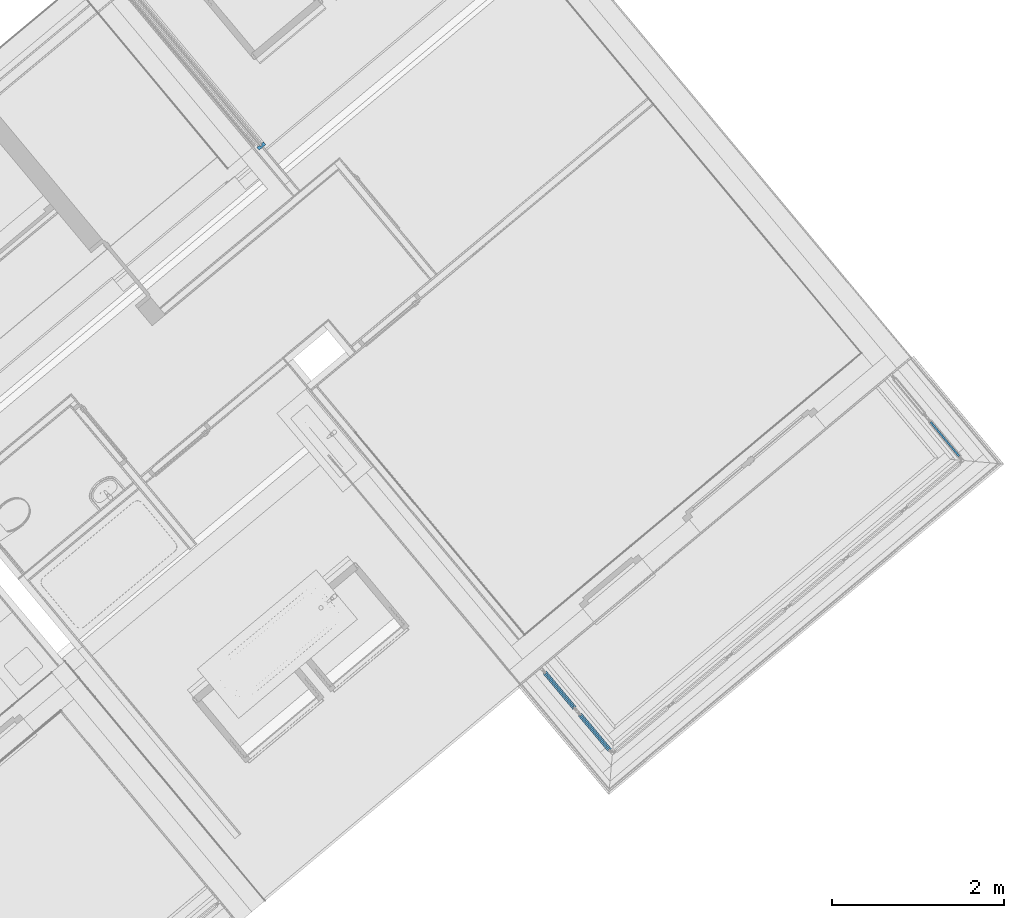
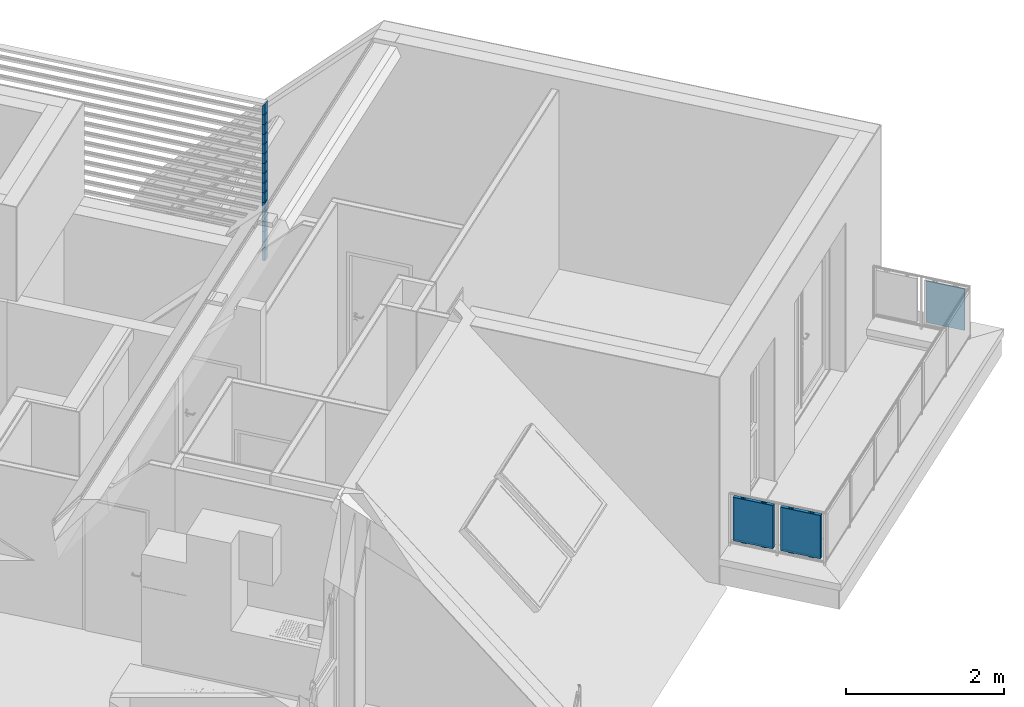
# One storey, part 41 of 47: 21 building element parts, 2 elements without a shape of their own.
"""IFC4 building model written with IfcOpenShell, lengths in metres."""

import ifcopenshell
import ifcopenshell.guid

model = None  # the IFC model being written
_history = None  # IfcOwnerHistory: only IFC2X3 demands one
_inside = {}  # id of a spatial element -> (the spatial element, [elements in it])
_under = {}  # id of a project, library or spatial element -> (it, [spatial elements below it])
_declared = {}  # id of a project -> (the project, [libraries it declares])
_typed = {}  # id of a type object -> (the type object, [elements of that type])
_made_of = {}  # id of a material, layer set ... -> (it, [elements and type objects made of it])


def new_model(schema):
    """Start an empty IFC model of exactly this schema.

    Asked for "IFC4X3", IfcOpenShell would pick the latest addendum, in which some entities
    have other attributes; the version numbers below select the first issue.
    IFC2X3 requires an IfcOwnerHistory on every rooted entity: one is made here for all.
    """
    global model, _history
    if schema == "IFC4X3":
        model = ifcopenshell.file(schema_version=(4, 3, 0, 0))
    else:
        model = ifcopenshell.file(schema=schema)
    _inside.clear()
    _under.clear()
    _declared.clear()
    _typed.clear()
    _made_of.clear()
    _history = None
    if model.schema == "IFC2X3":
        org = make("IfcOrganization", Name="unknown")
        user = make(
            "IfcPersonAndOrganization",
            ThePerson=make("IfcPerson", FamilyName="unknown"),
            TheOrganization=org,
        )
        app = make(
            "IfcApplication",
            ApplicationDeveloper=org,
            Version="unknown",
            ApplicationFullName="unknown",
            ApplicationIdentifier="unknown",
        )
        _history = make(
            "IfcOwnerHistory",
            OwningUser=user,
            OwningApplication=app,
            ChangeAction="ADDED",
            CreationDate=0,
        )
    return model


def make(cls, **values):
    """One entity of the class cls with the attributes given. An attribute that is None is left unset."""
    return model.create_entity(
        cls, **{name: value for name, value in values.items() if value is not None}
    )


def entity(cls, *values):
    """Any entity or typed value of the class cls, its attributes in the order of the schema. None: left unset."""
    e = model.create_entity(cls)
    for i, value in enumerate(values):
        if value is not None:
            e[i] = value
    return e


def rooted(cls, **values):
    """An entity with a GlobalId (a new one), such as an element, a storey or a relation."""
    return make(cls, GlobalId=ifcopenshell.guid.new(), OwnerHistory=_history, **values)


def si_unit(unit_type, name, prefix=None):
    """IfcSIUnit, for example si_unit("LENGTHUNIT", "METRE", prefix="MILLI")."""
    return make("IfcSIUnit", UnitType=unit_type, Prefix=prefix, Name=name)


def converted_unit(unit_type, name, factor, base, dimensions=None, offset=None):
    """IfcConversionBasedUnit, such as the inch: factor (a typed value) times the base unit."""
    return make(
        "IfcConversionBasedUnit"
        if offset is None
        else "IfcConversionBasedUnitWithOffset",
        ConversionOffset=offset,
        Dimensions=None
        if dimensions is None
        else entity("IfcDimensionalExponents", *dimensions),
        UnitType=unit_type,
        Name=name,
        ConversionFactor=make(
            "IfcMeasureWithUnit", ValueComponent=factor, UnitComponent=base
        ),
    )


def derived_unit(unit_type, elements):
    """IfcDerivedUnit: a product of units, each with its exponent."""
    return make(
        "IfcDerivedUnit",
        Elements=[
            make("IfcDerivedUnitElement", Unit=unit, Exponent=power)
            for unit, power in elements
        ],
        UnitType=unit_type,
    )


def assignment(units):
    """IfcUnitAssignment: the units of a project."""
    return None if units is None else make("IfcUnitAssignment", Units=units)


def point(xyz):
    """IfcCartesianPoint."""
    return None if xyz is None else make("IfcCartesianPoint", Coordinates=xyz)


def direction(xyz):
    """IfcDirection."""
    return None if xyz is None else make("IfcDirection", DirectionRatios=xyz)


def frame(location, z_axis=None, x_axis=None):
    """IfcAxis2Placement3D, a coordinate frame: its origin and axes. An axis left out is left unset."""
    return make(
        "IfcAxis2Placement3D",
        Location=point(location),
        Axis=direction(z_axis),
        RefDirection=direction(x_axis),
    )


def origin_with_axes():
    """The frame at (0, 0, 0) with the z axis (0, 0, 1) and the x axis (1, 0, 0) written out."""
    return frame((0.0, 0.0, 0.0), z_axis=(0.0, 0.0, 1.0), x_axis=(1.0, 0.0, 0.0))


def place(relative_to, where):
    """IfcLocalPlacement: puts the frame where relative to a parent placement (None: the world)."""
    return make(
        "IfcLocalPlacement", PlacementRelTo=relative_to, RelativePlacement=where
    )


def context(
    kind, dimensions, precision=None, world=None, true_north=None, identifier=None
):
    """IfcGeometricRepresentationContext, for example the 3D "Model" context."""
    return make(
        "IfcGeometricRepresentationContext",
        ContextIdentifier=identifier,
        ContextType=kind,
        CoordinateSpaceDimension=dimensions,
        Precision=precision,
        WorldCoordinateSystem=world,
        TrueNorth=true_north,
    )


def subcontext(parent, identifier, kind, view, scale=None):
    """IfcGeometricRepresentationSubContext, for example "Body" below "Model"."""
    return make(
        "IfcGeometricRepresentationSubContext",
        ContextIdentifier=identifier,
        ContextType=kind,
        ParentContext=parent,
        TargetScale=scale,
        TargetView=view,
    )


def project(units=None, contexts=None):
    """IfcProject with its units and contexts."""
    return rooted(
        "IfcProject",
        Name="project",
        RepresentationContexts=contexts,
        UnitsInContext=assignment(units),
    )


def spatial(cls, under=None, at=None, **own):
    """A site, building, storey or space (cls), placed at a placement, below another one or the project."""
    s = rooted(cls, ObjectPlacement=at, **own)
    if under is not None:
        _under.setdefault(under.id(), (under, []))[1].append(s)
    return s


def point_list(points):
    """IfcCartesianPointList2D or 3D."""
    cls = (
        "IfcCartesianPointList2D" if len(points[0]) == 2 else "IfcCartesianPointList3D"
    )
    return make(cls, CoordList=points)


def polygons(points, faces, closed=None, point_numbers=None):
    """IfcPolygonalFaceSet: a face is its outer loop, then its inner loops; points numbered from 1."""
    made = []
    for loops in faces:
        if len(loops) == 1:
            made.append(make("IfcIndexedPolygonalFace", CoordIndex=loops[0]))
        else:
            made.append(
                make(
                    "IfcIndexedPolygonalFaceWithVoids",
                    CoordIndex=loops[0],
                    InnerCoordIndices=loops[1:],
                )
            )
    return make(
        "IfcPolygonalFaceSet",
        Coordinates=point_list(points),
        Closed=closed,
        Faces=made,
        PnIndex=point_numbers,
    )


def shape(context_of_items, identifier, shape_type, items):
    """IfcShapeRepresentation: the items that make up one representation, for example the "Body"."""
    return make(
        "IfcShapeRepresentation",
        ContextOfItems=context_of_items,
        RepresentationIdentifier=identifier,
        RepresentationType=shape_type,
        Items=items,
    )


def material(Name=None, Category=None):
    """IfcMaterial."""
    return make("IfcMaterial", Name=Name, Category=Category)


def made_of(thing, what):
    """Note that an element or type object is made of a material, layer set ...; save() writes the relation."""
    if what is not None:
        _made_of.setdefault(what.id(), (what, []))[1].append(thing)
    return thing


def type_object(cls, material=None, **own):
    """A type object (cls), such as IfcWallType, which elements share."""
    return made_of(rooted(cls, **own), material)


def element(
    cls,
    number,
    at=None,
    inside=None,
    cuts=None,
    type_object=None,
    material=None,
    context=None,
    identifier="Body",
    shape_type=None,
    held_by="IfcProductDefinitionShape",
    body=None,
    shapes=None,
    **own,
):
    """One element of the class cls, such as IfcWall. Its Tag is "e" and its number.

    at: its placement. inside: the storey or other place that contains it. cuts: it is an
    opening in that element (IfcRelVoidsElement). A single representation is given by context,
    identifier, shape_type and body (its items); several are given by shapes. held_by: the class
    of the entity that holds the representations. save() writes the other relations.
    """
    e = rooted(cls, Tag="e%d" % number, ObjectPlacement=at, **own)
    if body is not None:
        shapes = [shape(context, identifier, shape_type, body)]
    if shapes is not None:
        e.Representation = make(held_by, Representations=shapes)
    if inside is not None:
        _inside.setdefault(inside.id(), (inside, []))[1].append(e)
    if cuts is not None:
        rooted(
            "IfcRelVoidsElement", RelatingBuildingElement=cuts, RelatedOpeningElement=e
        )
    if type_object is not None:
        _typed.setdefault(type_object.id(), (type_object, []))[1].append(e)
    return made_of(e, material)


def aggregate(whole, parts):
    """IfcRelAggregates: a whole, such as a stair, and the parts it consists of."""
    return rooted("IfcRelAggregates", RelatingObject=whole, RelatedObjects=parts)


def save(model, path):
    """Write the relations noted so far, then the file.

    IfcRelAggregates (storeys below a building ...), IfcRelContainedInSpatialStructure (elements
    in a storey), IfcRelDefinesByType, IfcRelAssociatesMaterial and IfcRelDeclares: one each for
    every whole, place, type object, material and project.
    """
    for whole, parts in _under.values():
        aggregate(whole, parts)
    for where, things in _inside.values():
        rooted(
            "IfcRelContainedInSpatialStructure",
            RelatedElements=things,
            RelatingStructure=where,
        )
    for kind, things in _typed.values():
        rooted("IfcRelDefinesByType", RelatedObjects=things, RelatingType=kind)
    for what, things in _made_of.values():
        rooted("IfcRelAssociatesMaterial", RelatedObjects=things, RelatingMaterial=what)
    for by, libraries in _declared.values():
        rooted("IfcRelDeclares", RelatingContext=by, RelatedDefinitions=libraries)
    model.write(path)


model = new_model("IFC4")

# Units and contexts
model_context = context("Model", 3, precision=1e-05, world=origin_with_axes(), true_north=direction((0.0, 1.0)))
body_context = subcontext(model_context, "Body", "Model", "MODEL_VIEW")
ifc_project = project(units=[si_unit("LENGTHUNIT", "METRE"), si_unit("AREAUNIT", "SQUARE_METRE"), si_unit("VOLUMEUNIT", "CUBIC_METRE"), converted_unit("PLANEANGLEUNIT", "DEGREE", entity("IfcPlaneAngleMeasure", 0.0174532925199), si_unit("PLANEANGLEUNIT", "RADIAN"), dimensions=[0, 0, 0, 0, 0, 0, 0]), converted_unit("TIMEUNIT", "Year", entity("IfcTimeMeasure", 31556926.0), si_unit("TIMEUNIT", "SECOND"), dimensions=[0, 0, 1, 0, 0, 0, 0]), si_unit("MASSUNIT", "GRAM", prefix="KILO"), si_unit("THERMODYNAMICTEMPERATUREUNIT", "DEGREE_CELSIUS"), si_unit("LUMINOUSINTENSITYUNIT", "LUMEN"), si_unit("ENERGYUNIT", "JOULE", prefix="MEGA"), derived_unit("THERMALCONDUCTANCEUNIT", [(si_unit("POWERUNIT", "WATT"), 1), (si_unit("LENGTHUNIT", "METRE"), -1), (si_unit("THERMODYNAMICTEMPERATUREUNIT", "KELVIN"), -1)]), derived_unit("SPECIFICHEATCAPACITYUNIT", [(si_unit("ENERGYUNIT", "JOULE"), 1), (si_unit("MASSUNIT", "GRAM", prefix="KILO"), -1), (si_unit("THERMODYNAMICTEMPERATUREUNIT", "KELVIN"), -1)]), derived_unit("MASSDENSITYUNIT", [(si_unit("MASSUNIT", "GRAM", prefix="KILO"), 1), (si_unit("VOLUMEUNIT", "CUBIC_METRE"), -1)])], contexts=[model_context])

# Site, building, storey
site_placement = place(None, frame((-0.00153261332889, -0.00661245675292, 0.0), z_axis=(0.0, 0.0, 1.0), x_axis=(1.0, 0.0, 0.0)))
site = spatial("IfcSite", under=ifc_project, at=site_placement, Name="Site", CompositionType="ELEMENT")
building_placement = place(site_placement, origin_with_axes())
building = spatial("IfcBuilding", under=site, at=building_placement, Name="Building", CompositionType="ELEMENT")
storey_placement = place(building_placement, frame((0.0, 0.0, 8.66), z_axis=(0.0, 0.0, 1.0), x_axis=(1.0, 0.0, 0.0)))
storey = spatial("IfcBuildingStorey", under=building, at=storey_placement, Name="DG2", CompositionType="ELEMENT", Elevation=8.66)

# Curtain wall, building element parts
curtain_wall_type = type_object("IfcCurtainWallType", Name="Fassadentyp", PredefinedType="NOTDEFINED")
curtain_wall_placement = place(storey_placement, frame((3.22758193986, 25.8519152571, 0.32), z_axis=(0.0, 0.0, 1.0), x_axis=(1.0, 0.0, 0.0)))
curtain_wall = element("IfcCurtainWall", 1, at=curtain_wall_placement, inside=storey, type_object=curtain_wall_type, Name="Fassade-001", PredefinedType="NOTDEFINED")
ifc_material_1 = material(Name="Blech")
building_element_part_1_placement = place(curtain_wall_placement, origin_with_axes())
building_element_part_1 = element("IfcBuildingElementPart", 2, at=building_element_part_1_placement, material=ifc_material_1, Name="Blech", PredefinedType="NOTDEFINED", context=body_context, shape_type="Tessellation", body=[
    polygons([(1.55485923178, -1.88503623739, 2.1), (1.54203854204, -1.86968599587, 2.1), (1.51517561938, -1.8921222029, 2.1), (1.54081699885, -1.92282268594, 2.1), (1.61756820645, -1.85871923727, 2.1), (1.59192682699, -1.82801875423, 2.1), (1.56506390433, -1.85045496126, 2.1), (1.57788459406, -1.86580520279, 2.1), (1.55485923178, -1.88503623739, 1.95), (1.54203854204, -1.86968599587, 1.95), (1.51517561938, -1.8921222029, 1.95), (1.54081699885, -1.92282268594, 1.95), (1.61756820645, -1.85871923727, 1.95), (1.59192682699, -1.82801875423, 1.95), (1.56506390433, -1.85045496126, 1.95), (1.57788459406, -1.86580520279, 1.95)], [[[1, 2, 3, 4, 5, 6, 7, 8]], [[1, 9, 10, 2]], [[10, 11, 3, 2]], [[11, 12, 4, 3]], [[12, 13, 5, 4]], [[13, 14, 6, 5]], [[7, 6, 14, 15]], [[15, 16, 8, 7]], [[8, 16, 9, 1]], [[9, 16, 15, 14, 13, 12, 11, 10]]], closed=True),
])
building_element_part_2_placement = place(curtain_wall_placement, origin_with_axes())
building_element_part_2 = element("IfcBuildingElementPart", 3, at=building_element_part_2_placement, material=ifc_material_1, Name="Blech", PredefinedType="NOTDEFINED", context=body_context, shape_type="Tessellation", body=[
    polygons([(1.55485923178, -1.88503623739, 2.25), (1.54203854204, -1.86968599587, 2.25), (1.51517561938, -1.8921222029, 2.25), (1.54081699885, -1.92282268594, 2.25), (1.61756820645, -1.85871923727, 2.25), (1.59192682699, -1.82801875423, 2.25), (1.56506390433, -1.85045496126, 2.25), (1.57788459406, -1.86580520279, 2.25), (1.55485923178, -1.88503623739, 2.1), (1.54203854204, -1.86968599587, 2.1), (1.51517561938, -1.8921222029, 2.1), (1.54081699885, -1.92282268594, 2.1), (1.61756820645, -1.85871923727, 2.1), (1.59192682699, -1.82801875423, 2.1), (1.56506390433, -1.85045496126, 2.1), (1.57788459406, -1.86580520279, 2.1)], [[[1, 2, 3, 4, 5, 6, 7, 8]], [[1, 9, 10, 2]], [[10, 11, 3, 2]], [[11, 12, 4, 3]], [[12, 13, 5, 4]], [[13, 14, 6, 5]], [[7, 6, 14, 15]], [[15, 16, 8, 7]], [[8, 16, 9, 1]], [[9, 16, 15, 14, 13, 12, 11, 10]]], closed=True),
])
building_element_part_3_placement = place(curtain_wall_placement, origin_with_axes())
building_element_part_3 = element("IfcBuildingElementPart", 4, at=building_element_part_3_placement, material=ifc_material_1, Name="Blech", PredefinedType="NOTDEFINED", context=body_context, shape_type="Tessellation", body=[
    polygons([(1.55485923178, -1.88503623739, 2.4), (1.54203854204, -1.86968599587, 2.4), (1.51517561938, -1.8921222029, 2.4), (1.54081699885, -1.92282268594, 2.4), (1.61756820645, -1.85871923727, 2.4), (1.59192682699, -1.82801875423, 2.4), (1.56506390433, -1.85045496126, 2.4), (1.57788459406, -1.86580520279, 2.4), (1.55485923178, -1.88503623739, 2.25), (1.54203854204, -1.86968599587, 2.25), (1.51517561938, -1.8921222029, 2.25), (1.54081699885, -1.92282268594, 2.25), (1.61756820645, -1.85871923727, 2.25), (1.59192682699, -1.82801875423, 2.25), (1.56506390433, -1.85045496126, 2.25), (1.57788459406, -1.86580520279, 2.25)], [[[1, 2, 3, 4, 5, 6, 7, 8]], [[1, 9, 10, 2]], [[10, 11, 3, 2]], [[11, 12, 4, 3]], [[12, 13, 5, 4]], [[13, 14, 6, 5]], [[7, 6, 14, 15]], [[15, 16, 8, 7]], [[8, 16, 9, 1]], [[9, 16, 15, 14, 13, 12, 11, 10]]], closed=True),
])
building_element_part_4_placement = place(curtain_wall_placement, origin_with_axes())
building_element_part_4 = element("IfcBuildingElementPart", 5, at=building_element_part_4_placement, material=ifc_material_1, Name="Blech", PredefinedType="NOTDEFINED", context=body_context, shape_type="Tessellation", body=[
    polygons([(1.55485923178, -1.88503623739, 2.55), (1.54203854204, -1.86968599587, 2.55), (1.51517561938, -1.8921222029, 2.55), (1.54081699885, -1.92282268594, 2.55), (1.61756820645, -1.85871923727, 2.55), (1.59192682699, -1.82801875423, 2.55), (1.56506390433, -1.85045496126, 2.55), (1.57788459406, -1.86580520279, 2.55), (1.55485923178, -1.88503623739, 2.4), (1.54203854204, -1.86968599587, 2.4), (1.51517561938, -1.8921222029, 2.4), (1.54081699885, -1.92282268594, 2.4), (1.61756820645, -1.85871923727, 2.4), (1.59192682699, -1.82801875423, 2.4), (1.56506390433, -1.85045496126, 2.4), (1.57788459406, -1.86580520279, 2.4)], [[[1, 2, 3, 4, 5, 6, 7, 8]], [[1, 9, 10, 2]], [[10, 11, 3, 2]], [[11, 12, 4, 3]], [[12, 13, 5, 4]], [[13, 14, 6, 5]], [[7, 6, 14, 15]], [[15, 16, 8, 7]], [[8, 16, 9, 1]], [[9, 16, 15, 14, 13, 12, 11, 10]]], closed=True),
])
building_element_part_5_placement = place(curtain_wall_placement, origin_with_axes())
building_element_part_5 = element("IfcBuildingElementPart", 6, at=building_element_part_5_placement, material=ifc_material_1, Name="Blech", PredefinedType="NOTDEFINED", context=body_context, shape_type="Tessellation", body=[
    polygons([(1.55485923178, -1.88503623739, 2.7), (1.54203854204, -1.86968599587, 2.7), (1.51517561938, -1.8921222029, 2.7), (1.54081699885, -1.92282268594, 2.7), (1.61756820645, -1.85871923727, 2.7), (1.59192682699, -1.82801875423, 2.7), (1.56506390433, -1.85045496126, 2.7), (1.57788459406, -1.86580520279, 2.7), (1.55485923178, -1.88503623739, 2.55), (1.54203854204, -1.86968599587, 2.55), (1.51517561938, -1.8921222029, 2.55), (1.54081699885, -1.92282268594, 2.55), (1.61756820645, -1.85871923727, 2.55), (1.59192682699, -1.82801875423, 2.55), (1.56506390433, -1.85045496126, 2.55), (1.57788459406, -1.86580520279, 2.55)], [[[1, 2, 3, 4, 5, 6, 7, 8]], [[1, 9, 10, 2]], [[10, 11, 3, 2]], [[11, 12, 4, 3]], [[12, 13, 5, 4]], [[13, 14, 6, 5]], [[7, 6, 14, 15]], [[15, 16, 8, 7]], [[8, 16, 9, 1]], [[9, 16, 15, 14, 13, 12, 11, 10]]], closed=True),
])
building_element_part_6_placement = place(curtain_wall_placement, origin_with_axes())
building_element_part_6 = element("IfcBuildingElementPart", 7, at=building_element_part_6_placement, material=ifc_material_1, Name="Blech", PredefinedType="NOTDEFINED", context=body_context, shape_type="Tessellation", body=[
    polygons([(1.55485923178, -1.88503623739, 2.85), (1.54203854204, -1.86968599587, 2.85), (1.51517561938, -1.8921222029, 2.85), (1.54081699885, -1.92282268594, 2.85), (1.61756820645, -1.85871923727, 2.85), (1.59192682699, -1.82801875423, 2.85), (1.56506390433, -1.85045496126, 2.85), (1.57788459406, -1.86580520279, 2.85), (1.55485923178, -1.88503623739, 2.7), (1.54203854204, -1.86968599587, 2.7), (1.51517561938, -1.8921222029, 2.7), (1.54081699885, -1.92282268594, 2.7), (1.61756820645, -1.85871923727, 2.7), (1.59192682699, -1.82801875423, 2.7), (1.56506390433, -1.85045496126, 2.7), (1.57788459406, -1.86580520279, 2.7)], [[[1, 2, 3, 4, 5, 6, 7, 8]], [[1, 9, 10, 2]], [[10, 11, 3, 2]], [[11, 12, 4, 3]], [[12, 13, 5, 4]], [[13, 14, 6, 5]], [[7, 6, 14, 15]], [[15, 16, 8, 7]], [[8, 16, 9, 1]], [[9, 16, 15, 14, 13, 12, 11, 10]]], closed=True),
])
building_element_part_7_placement = place(curtain_wall_placement, origin_with_axes())
building_element_part_7 = element("IfcBuildingElementPart", 8, at=building_element_part_7_placement, material=ifc_material_1, Name="Blech", PredefinedType="NOTDEFINED", context=body_context, shape_type="Tessellation", body=[
    polygons([(1.55485923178, -1.88503623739, 3.0), (1.54203854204, -1.86968599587, 3.0), (1.51517561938, -1.8921222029, 3.0), (1.54081699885, -1.92282268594, 3.0), (1.61756820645, -1.85871923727, 3.0), (1.59192682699, -1.82801875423, 3.0), (1.56506390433, -1.85045496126, 3.0), (1.57788459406, -1.86580520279, 3.0), (1.55485923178, -1.88503623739, 2.85), (1.54203854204, -1.86968599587, 2.85), (1.51517561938, -1.8921222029, 2.85), (1.54081699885, -1.92282268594, 2.85), (1.61756820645, -1.85871923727, 2.85), (1.59192682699, -1.82801875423, 2.85), (1.56506390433, -1.85045496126, 2.85), (1.57788459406, -1.86580520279, 2.85)], [[[1, 2, 3, 4, 5, 6, 7, 8]], [[1, 9, 10, 2]], [[10, 11, 3, 2]], [[11, 12, 4, 3]], [[12, 13, 5, 4]], [[13, 14, 6, 5]], [[7, 6, 14, 15]], [[15, 16, 8, 7]], [[8, 16, 9, 1]], [[9, 16, 15, 14, 13, 12, 11, 10]]], closed=True),
])
building_element_part_8_placement = place(curtain_wall_placement, origin_with_axes())
building_element_part_8 = element("IfcBuildingElementPart", 9, at=building_element_part_8_placement, material=ifc_material_1, Name="Blech", PredefinedType="NOTDEFINED", context=body_context, shape_type="Tessellation", body=[
    polygons([(1.55485923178, -1.88503623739, 3.15), (1.54203854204, -1.86968599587, 3.15), (1.51517561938, -1.8921222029, 3.15), (1.54081699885, -1.92282268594, 3.15), (1.61756820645, -1.85871923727, 3.15), (1.59192682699, -1.82801875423, 3.15), (1.56506390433, -1.85045496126, 3.15), (1.57788459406, -1.86580520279, 3.15), (1.55485923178, -1.88503623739, 3.0), (1.54203854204, -1.86968599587, 3.0), (1.51517561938, -1.8921222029, 3.0), (1.54081699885, -1.92282268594, 3.0), (1.61756820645, -1.85871923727, 3.0), (1.59192682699, -1.82801875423, 3.0), (1.56506390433, -1.85045496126, 3.0), (1.57788459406, -1.86580520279, 3.0)], [[[1, 2, 3, 4, 5, 6, 7, 8]], [[1, 9, 10, 2]], [[10, 11, 3, 2]], [[11, 12, 4, 3]], [[12, 13, 5, 4]], [[13, 14, 6, 5]], [[7, 6, 14, 15]], [[15, 16, 8, 7]], [[8, 16, 9, 1]], [[9, 16, 15, 14, 13, 12, 11, 10]]], closed=True),
])
building_element_part_9_placement = place(curtain_wall_placement, origin_with_axes())
building_element_part_9 = element("IfcBuildingElementPart", 10, at=building_element_part_9_placement, material=ifc_material_1, Name="Blech", PredefinedType="NOTDEFINED", context=body_context, shape_type="Tessellation", body=[
    polygons([(1.55485923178, -1.88503623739, 3.3), (1.54203854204, -1.86968599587, 3.3), (1.51517561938, -1.8921222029, 3.3), (1.54081699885, -1.92282268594, 3.3), (1.61756820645, -1.85871923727, 3.3), (1.59192682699, -1.82801875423, 3.3), (1.56506390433, -1.85045496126, 3.3), (1.57788459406, -1.86580520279, 3.3), (1.55485923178, -1.88503623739, 3.15), (1.54203854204, -1.86968599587, 3.15), (1.51517561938, -1.8921222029, 3.15), (1.54081699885, -1.92282268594, 3.15), (1.61756820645, -1.85871923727, 3.15), (1.59192682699, -1.82801875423, 3.15), (1.56506390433, -1.85045496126, 3.15), (1.57788459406, -1.86580520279, 3.15)], [[[1, 2, 3, 4, 5, 6, 7, 8]], [[1, 9, 10, 2]], [[10, 11, 3, 2]], [[11, 12, 4, 3]], [[12, 13, 5, 4]], [[13, 14, 6, 5]], [[7, 6, 14, 15]], [[15, 16, 8, 7]], [[8, 16, 9, 1]], [[9, 16, 15, 14, 13, 12, 11, 10]]], closed=True),
])
building_element_part_10_placement = place(curtain_wall_placement, origin_with_axes())
building_element_part_10 = element("IfcBuildingElementPart", 11, at=building_element_part_10_placement, material=ifc_material_1, Name="Blech", PredefinedType="NOTDEFINED", context=body_context, shape_type="Tessellation", body=[
    polygons([(1.55485923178, -1.88503623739, 3.45), (1.54203854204, -1.86968599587, 3.45), (1.51517561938, -1.8921222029, 3.45), (1.54081699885, -1.92282268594, 3.45), (1.61756820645, -1.85871923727, 3.45), (1.59192682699, -1.82801875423, 3.45), (1.56506390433, -1.85045496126, 3.45), (1.57788459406, -1.86580520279, 3.45), (1.55485923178, -1.88503623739, 3.3), (1.54203854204, -1.86968599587, 3.3), (1.51517561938, -1.8921222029, 3.3), (1.54081699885, -1.92282268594, 3.3), (1.61756820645, -1.85871923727, 3.3), (1.59192682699, -1.82801875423, 3.3), (1.56506390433, -1.85045496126, 3.3), (1.57788459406, -1.86580520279, 3.3)], [[[1, 2, 3, 4, 5, 6, 7, 8]], [[1, 9, 10, 2]], [[10, 11, 3, 2]], [[11, 12, 4, 3]], [[12, 13, 5, 4]], [[13, 14, 6, 5]], [[7, 6, 14, 15]], [[15, 16, 8, 7]], [[8, 16, 9, 1]], [[9, 16, 15, 14, 13, 12, 11, 10]]], closed=True),
])
building_element_part_11_placement = place(curtain_wall_placement, origin_with_axes())
building_element_part_11 = element("IfcBuildingElementPart", 12, at=building_element_part_11_placement, material=ifc_material_1, Name="Blech", PredefinedType="NOTDEFINED", context=body_context, shape_type="Tessellation", body=[
    polygons([(1.55485923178, -1.88503623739, 3.6), (1.54203854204, -1.86968599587, 3.6), (1.51517561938, -1.8921222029, 3.6), (1.54081699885, -1.92282268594, 3.6), (1.61756820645, -1.85871923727, 3.6), (1.59192682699, -1.82801875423, 3.6), (1.56506390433, -1.85045496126, 3.6), (1.57788459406, -1.86580520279, 3.6), (1.55485923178, -1.88503623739, 3.45), (1.54203854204, -1.86968599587, 3.45), (1.51517561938, -1.8921222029, 3.45), (1.54081699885, -1.92282268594, 3.45), (1.61756820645, -1.85871923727, 3.45), (1.59192682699, -1.82801875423, 3.45), (1.56506390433, -1.85045496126, 3.45), (1.57788459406, -1.86580520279, 3.45)], [[[1, 2, 3, 4, 5, 6, 7, 8]], [[1, 9, 10, 2]], [[10, 11, 3, 2]], [[11, 12, 4, 3]], [[12, 13, 5, 4]], [[13, 14, 6, 5]], [[7, 6, 14, 15]], [[15, 16, 8, 7]], [[8, 16, 9, 1]], [[9, 16, 15, 14, 13, 12, 11, 10]]], closed=True),
])
building_element_part_12_placement = place(curtain_wall_placement, origin_with_axes())
building_element_part_12 = element("IfcBuildingElementPart", 13, at=building_element_part_12_placement, material=ifc_material_1, Name="Blech", PredefinedType="NOTDEFINED", context=body_context, shape_type="Tessellation", body=[
    polygons([(1.55485923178, -1.88503623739, 3.75), (1.54203854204, -1.86968599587, 3.75), (1.51517561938, -1.8921222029, 3.75), (1.54081699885, -1.92282268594, 3.75), (1.61756820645, -1.85871923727, 3.75), (1.59192682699, -1.82801875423, 3.75), (1.56506390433, -1.85045496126, 3.75), (1.57788459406, -1.86580520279, 3.75), (1.55485923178, -1.88503623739, 3.6), (1.54203854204, -1.86968599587, 3.6), (1.51517561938, -1.8921222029, 3.6), (1.54081699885, -1.92282268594, 3.6), (1.61756820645, -1.85871923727, 3.6), (1.59192682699, -1.82801875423, 3.6), (1.56506390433, -1.85045496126, 3.6), (1.57788459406, -1.86580520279, 3.6)], [[[1, 2, 3, 4, 5, 6, 7, 8]], [[1, 9, 10, 2]], [[10, 11, 3, 2]], [[11, 12, 4, 3]], [[12, 13, 5, 4]], [[13, 14, 6, 5]], [[7, 6, 14, 15]], [[15, 16, 8, 7]], [[8, 16, 9, 1]], [[9, 16, 15, 14, 13, 12, 11, 10]]], closed=True),
])
building_element_part_13_placement = place(curtain_wall_placement, origin_with_axes())
building_element_part_13 = element("IfcBuildingElementPart", 14, at=building_element_part_13_placement, material=ifc_material_1, Name="Blech", PredefinedType="NOTDEFINED", context=body_context, shape_type="Tessellation", body=[
    polygons([(1.55485923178, -1.88503623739, 3.9), (1.54203854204, -1.86968599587, 3.9), (1.51517561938, -1.8921222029, 3.9), (1.54081699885, -1.92282268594, 3.9), (1.61756820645, -1.85871923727, 3.9), (1.59192682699, -1.82801875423, 3.9), (1.56506390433, -1.85045496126, 3.9), (1.57788459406, -1.86580520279, 3.9), (1.55485923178, -1.88503623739, 3.75), (1.54203854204, -1.86968599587, 3.75), (1.51517561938, -1.8921222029, 3.75), (1.54081699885, -1.92282268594, 3.75), (1.61756820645, -1.85871923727, 3.75), (1.59192682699, -1.82801875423, 3.75), (1.56506390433, -1.85045496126, 3.75), (1.57788459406, -1.86580520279, 3.75)], [[[1, 2, 3, 4, 5, 6, 7, 8]], [[1, 9, 10, 2]], [[10, 11, 3, 2]], [[11, 12, 4, 3]], [[12, 13, 5, 4]], [[13, 14, 6, 5]], [[7, 6, 14, 15]], [[15, 16, 8, 7]], [[8, 16, 9, 1]], [[9, 16, 15, 14, 13, 12, 11, 10]]], closed=True),
])
building_element_part_14_placement = place(curtain_wall_placement, origin_with_axes())
building_element_part_14 = element("IfcBuildingElementPart", 15, at=building_element_part_14_placement, material=ifc_material_1, Name="Blech", PredefinedType="NOTDEFINED", context=body_context, shape_type="Tessellation", body=[
    polygons([(1.55485923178, -1.88503623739, 4.05), (1.54203854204, -1.86968599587, 4.05), (1.51517561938, -1.8921222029, 4.05), (1.54081699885, -1.92282268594, 4.05), (1.61756820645, -1.85871923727, 4.05), (1.59192682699, -1.82801875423, 4.05), (1.56506390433, -1.85045496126, 4.05), (1.57788459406, -1.86580520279, 4.05), (1.55485923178, -1.88503623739, 3.9), (1.54203854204, -1.86968599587, 3.9), (1.51517561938, -1.8921222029, 3.9), (1.54081699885, -1.92282268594, 3.9), (1.61756820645, -1.85871923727, 3.9), (1.59192682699, -1.82801875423, 3.9), (1.56506390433, -1.85045496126, 3.9), (1.57788459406, -1.86580520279, 3.9)], [[[1, 2, 3, 4, 5, 6, 7, 8]], [[1, 9, 10, 2]], [[10, 11, 3, 2]], [[11, 12, 4, 3]], [[12, 13, 5, 4]], [[13, 14, 6, 5]], [[7, 6, 14, 15]], [[15, 16, 8, 7]], [[8, 16, 9, 1]], [[9, 16, 15, 14, 13, 12, 11, 10]]], closed=True),
])
building_element_part_15_placement = place(curtain_wall_placement, origin_with_axes())
building_element_part_15 = element("IfcBuildingElementPart", 16, at=building_element_part_15_placement, material=ifc_material_1, Name="Blech", PredefinedType="NOTDEFINED", context=body_context, shape_type="Tessellation", body=[
    polygons([(1.55485923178, -1.88503623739, 4.2), (1.54203854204, -1.86968599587, 4.2), (1.51517561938, -1.8921222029, 4.2), (1.54081699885, -1.92282268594, 4.2), (1.61756820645, -1.85871923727, 4.2), (1.59192682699, -1.82801875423, 4.2), (1.56506390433, -1.85045496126, 4.2), (1.57788459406, -1.86580520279, 4.2), (1.55485923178, -1.88503623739, 4.05), (1.54203854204, -1.86968599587, 4.05), (1.51517561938, -1.8921222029, 4.05), (1.54081699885, -1.92282268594, 4.05), (1.61756820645, -1.85871923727, 4.05), (1.59192682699, -1.82801875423, 4.05), (1.56506390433, -1.85045496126, 4.05), (1.57788459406, -1.86580520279, 4.05)], [[[1, 2, 3, 4, 5, 6, 7, 8]], [[1, 9, 10, 2]], [[10, 11, 3, 2]], [[11, 12, 4, 3]], [[12, 13, 5, 4]], [[13, 14, 6, 5]], [[7, 6, 14, 15]], [[15, 16, 8, 7]], [[8, 16, 9, 1]], [[9, 16, 15, 14, 13, 12, 11, 10]]], closed=True),
])
building_element_part_16_placement = place(curtain_wall_placement, origin_with_axes())
building_element_part_16 = element("IfcBuildingElementPart", 17, at=building_element_part_16_placement, material=ifc_material_1, Name="Blech", PredefinedType="NOTDEFINED", context=body_context, shape_type="Tessellation", body=[
    polygons([(1.55485923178, -1.88503623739, 4.35), (1.54203854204, -1.86968599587, 4.33), (1.51517561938, -1.8921222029, 4.33), (1.54081699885, -1.92282268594, 4.37), (1.61756820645, -1.85871923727, 4.37), (1.59192682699, -1.82801875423, 4.33), (1.56506390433, -1.85045496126, 4.33), (1.57788459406, -1.86580520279, 4.35), (1.55485923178, -1.88503623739, 4.2), (1.54203854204, -1.86968599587, 4.2), (1.51517561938, -1.8921222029, 4.2), (1.54081699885, -1.92282268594, 4.2), (1.61756820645, -1.85871923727, 4.2), (1.59192682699, -1.82801875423, 4.2), (1.56506390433, -1.85045496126, 4.2), (1.57788459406, -1.86580520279, 4.2)], [[[1, 2, 3, 4, 5, 6, 7, 8]], [[1, 9, 10, 2]], [[10, 11, 3, 2]], [[11, 12, 4, 3]], [[12, 13, 5, 4]], [[13, 14, 6, 5]], [[7, 6, 14, 15]], [[15, 16, 8, 7]], [[8, 16, 9, 1]], [[9, 16, 15, 14, 13, 12, 11, 10]]], closed=True),
])
aggregate(curtain_wall, [building_element_part_1, building_element_part_2, building_element_part_3, building_element_part_4, building_element_part_5, building_element_part_6, building_element_part_7, building_element_part_8, building_element_part_9, building_element_part_10, building_element_part_11, building_element_part_12, building_element_part_13, building_element_part_14, building_element_part_15, building_element_part_16])

# Railing, building element parts
railing_type = type_object("IfcRailingType", Name="Geländerart", PredefinedType="NOTDEFINED")
railing_placement = place(storey_placement, frame((8.09801261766, 17.9211539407, 0.38), z_axis=(0.0, 0.0, 1.0), x_axis=(1.0, 0.0, 0.0)))
railing = element("IfcRailing", 18, at=railing_placement, inside=storey, type_object=railing_type, Name="Geländer - 001", PredefinedType="NOTDEFINED")
ifc_material_2 = material(Name="Profilit")
building_element_part_17_placement = place(railing_placement, origin_with_axes())
building_element_part_17 = element("IfcBuildingElementPart", 19, at=building_element_part_17_placement, material=ifc_material_2, Name="Profilit", PredefinedType="NOTDEFINED", context=body_context, shape_type="Tessellation", body=[
    polygons([(0.337813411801, -0.466076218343, 0.135), (0.0110331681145, -0.0755199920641, 0.135), (0.0110331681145, -0.0755199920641, 0.775), (0.337813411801, -0.466076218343, 0.775), (-0.00430579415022, -0.088354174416, 0.135), (0.322474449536, -0.478910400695, 0.135), (-0.00430579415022, -0.088354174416, 0.775), (0.322474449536, -0.478910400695, 0.775)], [[[1, 2, 3, 4]], [[5, 2, 1, 6]], [[7, 3, 2, 5]], [[4, 3, 7, 8]], [[1, 4, 8, 6]], [[7, 5, 6, 8]]], closed=True),
])
ifc_material_3 = material(Name="Aluminium")
building_element_part_18_placement = place(railing_placement, origin_with_axes())
building_element_part_18 = element("IfcBuildingElementPart", 20, at=building_element_part_18_placement, material=ifc_material_3, Name="Aluminium", PredefinedType="NOTDEFINED", context=body_context, shape_type="Tessellation", body=[
    polygons([(0.0598263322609, -0.145523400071, 0.12), (0.104745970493, -0.199209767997, 0.12), (0.104745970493, -0.199209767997, 0.095), (0.0598263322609, -0.145523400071, 0.095), (0.0559915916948, -0.148731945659, 0.12), (0.100911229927, -0.202418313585, 0.12), (0.100911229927, -0.202418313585, 0.095), (0.0559915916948, -0.148731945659, 0.095)], [[[1, 2, 3, 4]], [[5, 6, 2, 1]], [[2, 6, 7, 3]], [[4, 3, 7, 8]], [[1, 4, 8, 5]], [[8, 7, 6, 5]]], closed=True),
    polygons([(0.232596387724, -0.352012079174, 0.12), (0.277516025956, -0.4056984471, 0.12), (0.277516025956, -0.4056984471, 0.095), (0.232596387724, -0.352012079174, 0.095), (0.228761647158, -0.355220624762, 0.12), (0.27368128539, -0.408906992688, 0.12), (0.27368128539, -0.408906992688, 0.095), (0.228761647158, -0.355220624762, 0.095)], [[[1, 2, 3, 4]], [[5, 6, 2, 1]], [[2, 6, 7, 3]], [[4, 3, 7, 8]], [[1, 4, 8, 5]], [[8, 7, 6, 5]]], closed=True),
    polygons([(0.277516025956, -0.4056984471, 0.79), (0.232596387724, -0.352012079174, 0.79), (0.232596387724, -0.352012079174, 0.795), (0.277516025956, -0.4056984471, 0.795), (0.27368128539, -0.408906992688, 0.79), (0.228761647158, -0.355220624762, 0.79), (0.228761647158, -0.355220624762, 0.795), (0.27368128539, -0.408906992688, 0.795)], [[[1, 2, 3, 4]], [[5, 6, 2, 1]], [[2, 6, 7, 3]], [[4, 3, 7, 8]], [[1, 4, 8, 5]], [[8, 7, 6, 5]]], closed=True),
    polygons([(0.104745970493, -0.199209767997, 0.79), (0.0598263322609, -0.145523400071, 0.79), (0.0598263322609, -0.145523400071, 0.795), (0.104745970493, -0.199209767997, 0.795), (0.100911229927, -0.202418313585, 0.79), (0.0559915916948, -0.148731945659, 0.79), (0.0559915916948, -0.148731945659, 0.795), (0.100911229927, -0.202418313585, 0.795)], [[[1, 2, 3, 4]], [[5, 6, 2, 1]], [[2, 6, 7, 3]], [[4, 3, 7, 8]], [[1, 4, 8, 5]], [[8, 7, 6, 5]]], closed=True),
    polygons([(-0.0254356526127, -0.0864755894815, 0.12), (0.012911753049, -0.0543901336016, 0.12), (0.358943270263, -0.467954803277, 0.12), (0.320595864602, -0.500040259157, 0.12), (-0.0126014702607, -0.101814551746, 0.14), (-0.00109724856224, -0.0921889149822, 0.14), (-0.00430579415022, -0.088354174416, 0.135), (0.0110331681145, -0.0755199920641, 0.135), (0.0142417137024, -0.0793547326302, 0.14), (0.0257459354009, -0.0697290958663, 0.14), (0.346109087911, -0.452615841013, 0.14), (0.346109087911, -0.452615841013, 0.77), (0.0257459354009, -0.0697290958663, 0.77), (0.0257459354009, -0.0697290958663, 0.14), (0.012911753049, -0.0543901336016, 0.12), (0.012911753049, -0.0543901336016, 0.79), (0.358943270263, -0.467954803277, 0.79), (0.320595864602, -0.500040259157, 0.79), (-0.0254356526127, -0.0864755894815, 0.79), (-0.0254356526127, -0.0864755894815, 0.12), (-0.0126014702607, -0.101814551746, 0.14), (-0.0126014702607, -0.101814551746, 0.77), (0.30776168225, -0.484701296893, 0.77), (0.30776168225, -0.484701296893, 0.14), (0.319265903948, -0.475075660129, 0.14), (0.319265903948, -0.475075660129, 0.77), (-0.00109724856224, -0.0921889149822, 0.77), (-0.00109724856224, -0.0921889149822, 0.14), (-0.00430579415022, -0.088354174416, 0.135), (-0.00430579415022, -0.088354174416, 0.775), (0.322474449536, -0.478910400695, 0.775), (0.322474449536, -0.478910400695, 0.135), (0.337813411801, -0.466076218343, 0.135), (0.337813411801, -0.466076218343, 0.775), (0.0110331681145, -0.0755199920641, 0.775), (0.0110331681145, -0.0755199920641, 0.135), (0.0142417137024, -0.0793547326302, 0.14), (0.0142417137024, -0.0793547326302, 0.77), (0.334604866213, -0.462241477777, 0.77), (0.334604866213, -0.462241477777, 0.14)], [[[1, 2, 3, 4]], [[1, 5, 6, 7, 8, 9, 10, 2]], [[2, 10, 11, 12, 13, 14, 15, 16, 17, 3]], [[4, 3, 17, 18]], [[5, 1, 4, 18, 19, 20, 21, 22, 23, 24]], [[6, 5, 24, 25]], [[7, 6, 25, 26, 27, 28, 29, 30, 31, 32]], [[8, 7, 32, 33]], [[9, 8, 33, 34, 35, 36, 37, 38, 39, 40]], [[10, 9, 40, 11]], [[11, 40, 39, 12]], [[12, 39, 38, 13]], [[13, 38, 37, 14]], [[20, 15, 14, 37, 36, 29, 28, 21]], [[19, 16, 15, 20]], [[18, 17, 16, 19]], [[27, 22, 21, 28]], [[26, 23, 22, 27]], [[25, 24, 23, 26]], [[35, 30, 29, 36]], [[34, 31, 30, 35]], [[33, 32, 31, 34]]], closed=True),
])
building_element_part_19_placement = place(railing_placement, origin_with_axes())
building_element_part_19 = element("IfcBuildingElementPart", 21, at=building_element_part_19_placement, material=ifc_material_2, Name="Profilit", PredefinedType="NOTDEFINED", context=body_context, shape_type="Tessellation", body=[
    polygons([(0.748015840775, -0.956335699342, 0.135), (0.421235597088, -0.565779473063, 0.135), (0.421235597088, -0.565779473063, 0.775), (0.748015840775, -0.956335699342, 0.775), (0.405896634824, -0.578613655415, 0.135), (0.73267687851, -0.969169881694, 0.135), (0.405896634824, -0.578613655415, 0.775), (0.73267687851, -0.969169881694, 0.775)], [[[1, 2, 3, 4]], [[5, 2, 1, 6]], [[7, 3, 2, 5]], [[4, 3, 7, 8]], [[1, 4, 8, 6]], [[7, 5, 6, 8]]], closed=True),
])
building_element_part_20_placement = place(railing_placement, origin_with_axes())
building_element_part_20 = element("IfcBuildingElementPart", 22, at=building_element_part_20_placement, material=ifc_material_3, Name="Aluminium", PredefinedType="NOTDEFINED", context=body_context, shape_type="Tessellation", body=[
    polygons([(0.470028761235, -0.63578288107, 0.12), (0.514948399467, -0.689469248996, 0.12), (0.514948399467, -0.689469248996, 0.095), (0.470028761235, -0.63578288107, 0.095), (0.466194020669, -0.638991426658, 0.12), (0.511113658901, -0.692677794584, 0.12), (0.511113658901, -0.692677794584, 0.095), (0.466194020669, -0.638991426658, 0.095)], [[[1, 2, 3, 4]], [[5, 6, 2, 1]], [[2, 6, 7, 3]], [[4, 3, 7, 8]], [[1, 4, 8, 5]], [[8, 7, 6, 5]]], closed=True),
    polygons([(0.642798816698, -0.842271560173, 0.12), (0.68771845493, -0.895957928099, 0.12), (0.68771845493, -0.895957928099, 0.095), (0.642798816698, -0.842271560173, 0.095), (0.638964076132, -0.845480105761, 0.12), (0.683883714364, -0.899166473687, 0.12), (0.683883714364, -0.899166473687, 0.095), (0.638964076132, -0.845480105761, 0.095)], [[[1, 2, 3, 4]], [[5, 6, 2, 1]], [[2, 6, 7, 3]], [[4, 3, 7, 8]], [[1, 4, 8, 5]], [[8, 7, 6, 5]]], closed=True),
    polygons([(0.68771845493, -0.895957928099, 0.79), (0.642798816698, -0.842271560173, 0.79), (0.642798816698, -0.842271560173, 0.795), (0.68771845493, -0.895957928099, 0.795), (0.683883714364, -0.899166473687, 0.79), (0.638964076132, -0.845480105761, 0.79), (0.638964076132, -0.845480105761, 0.795), (0.683883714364, -0.899166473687, 0.795)], [[[1, 2, 3, 4]], [[5, 6, 2, 1]], [[2, 6, 7, 3]], [[4, 3, 7, 8]], [[1, 4, 8, 5]], [[8, 7, 6, 5]]], closed=True),
    polygons([(0.514948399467, -0.689469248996, 0.79), (0.470028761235, -0.63578288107, 0.79), (0.470028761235, -0.63578288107, 0.795), (0.514948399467, -0.689469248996, 0.795), (0.511113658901, -0.692677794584, 0.79), (0.466194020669, -0.638991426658, 0.79), (0.466194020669, -0.638991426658, 0.795), (0.511113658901, -0.692677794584, 0.795)], [[[1, 2, 3, 4]], [[5, 6, 2, 1]], [[2, 6, 7, 3]], [[4, 3, 7, 8]], [[1, 4, 8, 5]], [[8, 7, 6, 5]]], closed=True),
    polygons([(0.384766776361, -0.576735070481, 0.12), (0.423114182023, -0.544649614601, 0.12), (0.769145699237, -0.958214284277, 0.12), (0.730798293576, -0.990299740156, 0.12), (0.397600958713, -0.592074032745, 0.14), (0.409105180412, -0.582448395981, 0.14), (0.405896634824, -0.578613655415, 0.135), (0.421235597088, -0.565779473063, 0.135), (0.424444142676, -0.569614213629, 0.14), (0.435948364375, -0.559988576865, 0.14), (0.756311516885, -0.942875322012, 0.14), (0.756311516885, -0.942875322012, 0.77), (0.435948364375, -0.559988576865, 0.77), (0.435948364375, -0.559988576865, 0.14), (0.423114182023, -0.544649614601, 0.12), (0.423114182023, -0.544649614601, 0.79), (0.769145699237, -0.958214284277, 0.79), (0.730798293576, -0.990299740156, 0.79), (0.384766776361, -0.576735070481, 0.79), (0.384766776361, -0.576735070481, 0.12), (0.397600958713, -0.592074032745, 0.14), (0.397600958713, -0.592074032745, 0.77), (0.717964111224, -0.974960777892, 0.77), (0.717964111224, -0.974960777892, 0.14), (0.729468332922, -0.965335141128, 0.14), (0.729468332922, -0.965335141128, 0.77), (0.409105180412, -0.582448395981, 0.77), (0.409105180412, -0.582448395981, 0.14), (0.405896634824, -0.578613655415, 0.135), (0.405896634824, -0.578613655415, 0.775), (0.73267687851, -0.969169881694, 0.775), (0.73267687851, -0.969169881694, 0.135), (0.748015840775, -0.956335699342, 0.135), (0.748015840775, -0.956335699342, 0.775), (0.421235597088, -0.565779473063, 0.775), (0.421235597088, -0.565779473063, 0.135), (0.424444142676, -0.569614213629, 0.14), (0.424444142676, -0.569614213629, 0.77), (0.744807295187, -0.952500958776, 0.77), (0.744807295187, -0.952500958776, 0.14)], [[[1, 2, 3, 4]], [[1, 5, 6, 7, 8, 9, 10, 2]], [[2, 10, 11, 12, 13, 14, 15, 16, 17, 3]], [[4, 3, 17, 18]], [[5, 1, 4, 18, 19, 20, 21, 22, 23, 24]], [[6, 5, 24, 25]], [[7, 6, 25, 26, 27, 28, 29, 30, 31, 32]], [[8, 7, 32, 33]], [[9, 8, 33, 34, 35, 36, 37, 38, 39, 40]], [[10, 9, 40, 11]], [[11, 40, 39, 12]], [[12, 39, 38, 13]], [[13, 38, 37, 14]], [[20, 15, 14, 37, 36, 29, 28, 21]], [[19, 16, 15, 20]], [[18, 17, 16, 19]], [[27, 22, 21, 28]], [[26, 23, 22, 27]], [[25, 24, 23, 26]], [[35, 30, 29, 36]], [[34, 31, 30, 35]], [[33, 32, 31, 34]]], closed=True),
])
building_element_part_21_placement = place(railing_placement, origin_with_axes())
building_element_part_21 = element("IfcBuildingElementPart", 23, at=building_element_part_21_placement, material=ifc_material_2, Name="Profilit", PredefinedType="NOTDEFINED", context=body_context, shape_type="Tessellation", body=[
    polygons([(4.47547779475, 2.83769919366, 0.135), (4.80704625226, 2.43928812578, 0.135), (4.80704625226, 2.43928812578, 0.775), (4.47547779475, 2.83769919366, 0.775), (4.8224190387, 2.4520817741, 0.135), (4.49085058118, 2.85049284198, 0.135), (4.8224190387, 2.4520817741, 0.775), (4.49085058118, 2.85049284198, 0.775)], [[[1, 2, 3, 4]], [[5, 2, 1, 6]], [[7, 3, 2, 5]], [[4, 3, 7, 8]], [[1, 4, 8, 6]], [[7, 5, 6, 8]]], closed=True),
])
aggregate(railing, [building_element_part_17, building_element_part_18, building_element_part_19, building_element_part_20, building_element_part_21])

save(model, "model.ifc")
